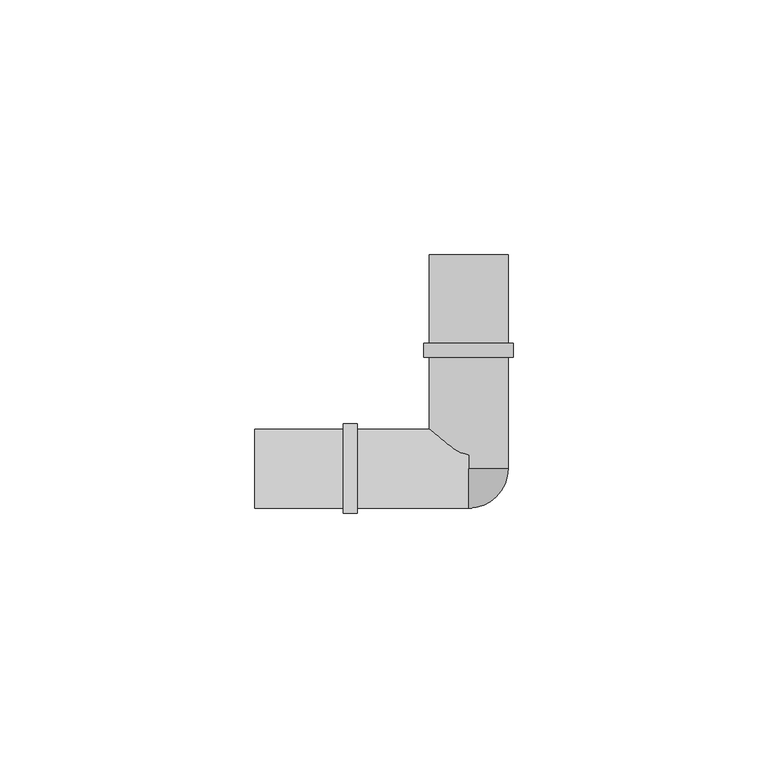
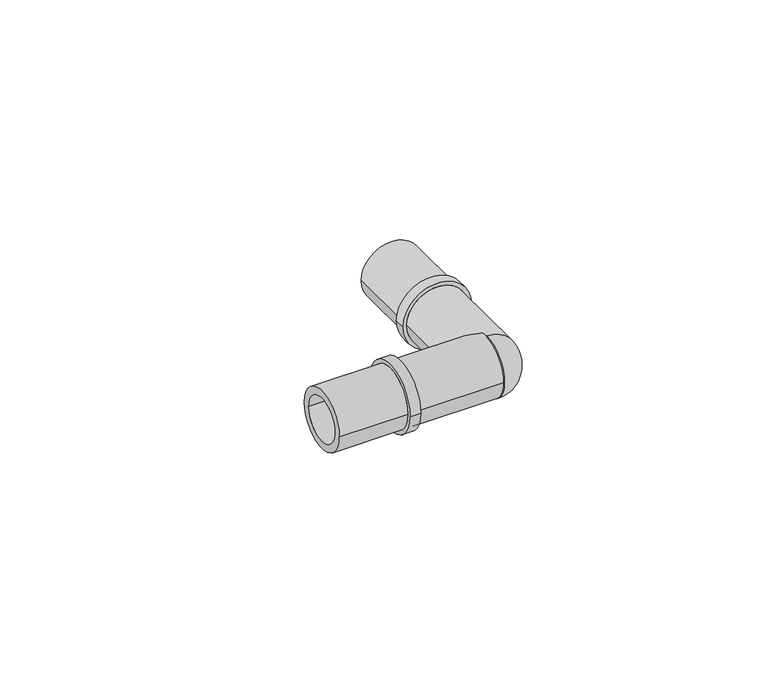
"""IFC4 building model written with IfcOpenShell, lengths in millimetres: pipe fitting geometry, FASTLOC_Corner LX : FSL C LX PL."""

from ifc_helpers import new_model, si_unit, point, frame, origin, place, context, project, spatial, polyline, circle_curve, ellipse_curve, trimmed, source, transform, mapped, element, save
from ifc_brep_helpers import plane_surface, cylinder_surface, revolved_surface, advanced_brep


def pipe_fitting_daad601f(model_context):
    return source(origin(), model_context, "Body", "AdvancedBrep", [
        advanced_brep(
        [(0.0, 0.0, 7.8), (0.0, 0.0, 0.0), (0.0, -7.8, 0.0), (0.0, 0.0, -7.8)],
        [
            (0, 1),
            (1, 2),
            (2, 0, circle_curve(frame((0.0, 0.0, 0.0), z_axis=(-1.0, 0.0, 0.0), x_axis=(0.0, 0.0, 1.0)), 7.8)),
            (3, 2, circle_curve(frame((0.0, 0.0, 0.0), z_axis=(-1.0, 0.0, 0.0), x_axis=(0.0, 0.0, -1.0)), 7.8)),
            (1, 3),
            (0, 3, circle_curve(frame((0.0, 0.0, 0.0), z_axis=(0.0, 1.0, 0.0), x_axis=(0.0, 0.0, 1.0)), 7.8)),
        ],
        [
            plane_surface(frame((0.0, 0.0, 0.0), z_axis=(-1.0, 0.0, 0.0), x_axis=(0.0, 0.0, 1.0))),
            plane_surface(frame((0.0, 0.0, 0.0), z_axis=(-1.0, 0.0, 0.0), x_axis=(0.0, 0.0, -1.0))),
            plane_surface(frame((0.0, 0.0, 0.0), z_axis=(0.0, 1.0, 0.0), x_axis=(0.0, 0.0, 1.0))),
            revolved_surface(trimmed(ellipse_curve(frame((0.0, 0.0, 0.0), z_axis=(-1.0, 0.0, 0.0), x_axis=(0.0, 0.0, 1.0)), 7.8, 7.8), [point((0.0, -7.8, 0.0))], [point((0.0, 0.0, 7.8))], True, "CARTESIAN"), (0.0, 0.0, 0.0), (0.0, 1.0, 0.0)),
        ],
        [
            (0, [[1, 2, 3]]),
            (1, [[4, -2, 5]]),
            (2, [[-1, 6, -5]]),
            (3, [[-6, -3, -4]]),
        ],
    ),
        advanced_brep(
        [(-42.0, 5.75, 0.0), (-42.0, -5.75, 0.0), (0.0, -5.75, 0.0), (0.0, 5.75, 0.0), (-24.6, 7.75, 0.0), (-24.6, -7.75, 0.0), (-42.0, -7.75, 0.0), (-42.0, 7.75, 0.0), (-21.9, 8.8, 0.0), (-21.9, -8.8, 0.0), (-24.6, -8.8, 0.0), (-24.6, 8.8, 0.0), (0.0, 7.75, 0.0), (0.0, -7.75, 0.0), (-21.9, -7.75, 0.0), (-21.9, 7.75, 0.0)],
        [
            (0, 1, circle_curve(frame((-42.0, 0.0, 0.0), z_axis=(-1.0, 0.0, 0.0), x_axis=(0.0, -1.0, 0.0)), 5.75)),
            (1, 2),
            (2, 3, circle_curve(frame((0.0, 0.0, 0.0), z_axis=(1.0, 0.0, 0.0), x_axis=(0.0, -1.0, 0.0)), 5.75)),
            (3, 0),
            (4, 5, circle_curve(frame((-24.6, 0.0, 0.0), z_axis=(-1.0, 0.0, 0.0), x_axis=(0.0, -1.0, 0.0)), 7.75)),
            (5, 6),
            (6, 7, circle_curve(frame((-42.0, 0.0, 0.0), z_axis=(1.0, 0.0, 0.0), x_axis=(0.0, -1.0, 0.0)), 7.75)),
            (7, 4),
            (8, 9, circle_curve(frame((-21.9, 0.0, 0.0), z_axis=(-1.0, 0.0, 0.0), x_axis=(0.0, -1.0, 0.0)), 8.8)),
            (9, 10),
            (10, 11, circle_curve(frame((-24.6, 0.0, 0.0), z_axis=(1.0, 0.0, 0.0), x_axis=(0.0, -1.0, 0.0)), 8.8)),
            (11, 8),
            (12, 13, circle_curve(frame((0.0, 0.0, 0.0), z_axis=(-1.0, 0.0, 0.0), x_axis=(0.0, -1.0, 0.0)), 7.75)),
            (13, 14),
            (14, 15, circle_curve(frame((-21.9, 0.0, 0.0), z_axis=(1.0, 0.0, 0.0), x_axis=(0.0, -1.0, 0.0)), 7.75)),
            (15, 12),
            (1, 0, circle_curve(frame((-42.0, 0.0, 0.0), z_axis=(-1.0, 0.0, 0.0), x_axis=(0.0, 1.0, 0.0)), 5.75)),
            (3, 2, circle_curve(frame((0.0, 0.0, 0.0), z_axis=(1.0, 0.0, 0.0), x_axis=(0.0, 1.0, 0.0)), 5.75)),
            (6, 7, circle_curve(frame((-42.0, 0.0, 0.0), z_axis=(-1.0, 0.0, 0.0), x_axis=(0.0, 1.0, 0.0)), 7.75)),
            (5, 4, circle_curve(frame((-24.6, 0.0, 0.0), z_axis=(-1.0, 0.0, 0.0), x_axis=(0.0, 1.0, 0.0)), 7.75)),
            (10, 11, circle_curve(frame((-24.6, 0.0, 0.0), z_axis=(-1.0, 0.0, 0.0), x_axis=(0.0, 1.0, 0.0)), 8.8)),
            (9, 8, circle_curve(frame((-21.9, 0.0, 0.0), z_axis=(-1.0, 0.0, 0.0), x_axis=(0.0, 1.0, 0.0)), 8.8)),
            (14, 15, circle_curve(frame((-21.9, 0.0, 0.0), z_axis=(-1.0, 0.0, 0.0), x_axis=(0.0, 1.0, 0.0)), 7.75)),
            (13, 12, circle_curve(frame((0.0, 0.0, 0.0), z_axis=(-1.0, 0.0, 0.0), x_axis=(0.0, 1.0, 0.0)), 7.75)),
        ],
        [
            revolved_surface(polyline([(0.0, -5.75, 0.0), (-42.0, -5.75, 0.0)]), (0.0, 0.0, 0.0), (1.0, 0.0, 0.0)),
            cylinder_surface(frame((0.0, 0.0, 0.0), z_axis=(1.0, 0.0, 0.0), x_axis=(0.0, -1.0, 0.0)), 7.75),
            cylinder_surface(frame((0.0, 0.0, 0.0), z_axis=(1.0, 0.0, 0.0), x_axis=(0.0, -1.0, 0.0)), 8.8),
            revolved_surface(polyline([(0.0, 5.75, 0.0), (-42.0, 5.75, 0.0)]), (0.0, 0.0, 0.0), (1.0, 0.0, 0.0)),
            plane_surface(frame((-42.0, 0.0, 0.0), z_axis=(-1.0, 0.0, 0.0), x_axis=(0.0, 1.0, 0.0))),
            cylinder_surface(frame((0.0, 0.0, 0.0), z_axis=(1.0, 0.0, 0.0), x_axis=(0.0, 1.0, 0.0)), 7.75),
            plane_surface(frame((-24.6, 0.0, 0.0), z_axis=(-1.0, 0.0, 0.0), x_axis=(0.0, 1.0, 0.0))),
            cylinder_surface(frame((0.0, 0.0, 0.0), z_axis=(1.0, 0.0, 0.0), x_axis=(0.0, 1.0, 0.0)), 8.8),
            plane_surface(frame((-21.9, 0.0, 0.0), z_axis=(1.0, 0.0, 0.0), x_axis=(0.0, 1.0, 0.0))),
            plane_surface(frame((0.0, 0.0, 0.0), z_axis=(1.0, 0.0, 0.0), x_axis=(0.0, 1.0, 0.0))),
        ],
        [
            (0, [[1, 2, 3, 4]]),
            (1, [[5, 6, 7, 8]]),
            (2, [[9, 10, 11, 12]]),
            (1, [[13, 14, 15, 16]]),
            (3, [[17, -4, 18, -2]]),
            (4, [[19, -7], [-17, -1]]),
            (5, [[20, -8, -19, -6]]),
            (6, [[21, -11], [-20, -5]]),
            (7, [[22, -12, -21, -10]]),
            (8, [[-22, -9], [23, -15]]),
            (5, [[24, -16, -23, -14]]),
            (9, [[-24, -13], [-18, -3]]),
        ],
    ),
        advanced_brep(
        [(5.75, 42.0, 0.0), (-5.75, 42.0, 0.0), (-5.75, 0.0, 0.0), (5.75, 0.0, 0.0), (7.75, 24.6, 0.0), (-7.75, 24.6, 0.0), (-7.75, 42.0, 0.0), (7.75, 42.0, 0.0), (8.8, 21.9, 0.0), (-8.8, 21.9, 0.0), (-8.8, 24.6, 0.0), (8.8, 24.6, 0.0), (7.75, 0.0, 0.0), (-7.75, 0.0, 0.0), (-7.75, 21.9, 0.0), (7.75, 21.9, 0.0)],
        [
            (0, 1, circle_curve(frame((0.0, 42.0, 0.0), z_axis=(0.0, 1.0, 0.0), x_axis=(-1.0, 0.0, 0.0)), 5.75)),
            (1, 2),
            (2, 3, circle_curve(frame((0.0, 0.0, 0.0), z_axis=(0.0, -1.0, 0.0), x_axis=(-1.0, 0.0, 0.0)), 5.75)),
            (3, 0),
            (4, 5, circle_curve(frame((0.0, 24.6, 0.0), z_axis=(0.0, 1.0, 0.0), x_axis=(-1.0, 0.0, 0.0)), 7.75)),
            (5, 6),
            (6, 7, circle_curve(frame((0.0, 42.0, 0.0), z_axis=(0.0, -1.0, 0.0), x_axis=(-1.0, 0.0, 0.0)), 7.75)),
            (7, 4),
            (8, 9, circle_curve(frame((0.0, 21.9, 0.0), z_axis=(0.0, 1.0, 0.0), x_axis=(-1.0, 0.0, 0.0)), 8.8)),
            (9, 10),
            (10, 11, circle_curve(frame((0.0, 24.6, 0.0), z_axis=(0.0, -1.0, 0.0), x_axis=(-1.0, 0.0, 0.0)), 8.8)),
            (11, 8),
            (12, 13, circle_curve(frame((0.0, 0.0, 0.0), z_axis=(0.0, 1.0, 0.0), x_axis=(-1.0, 0.0, 0.0)), 7.75)),
            (13, 14),
            (14, 15, circle_curve(frame((0.0, 21.9, 0.0), z_axis=(0.0, -1.0, 0.0), x_axis=(-1.0, 0.0, 0.0)), 7.75)),
            (15, 12),
            (1, 0, circle_curve(frame((0.0, 42.0, 0.0), z_axis=(0.0, 1.0, 0.0), x_axis=(1.0, 0.0, 0.0)), 5.75)),
            (3, 2, circle_curve(frame((0.0, 0.0, 0.0), z_axis=(0.0, -1.0, 0.0), x_axis=(1.0, 0.0, 0.0)), 5.75)),
            (6, 7, circle_curve(frame((0.0, 42.0, 0.0), z_axis=(0.0, 1.0, 0.0), x_axis=(1.0, 0.0, 0.0)), 7.75)),
            (5, 4, circle_curve(frame((0.0, 24.6, 0.0), z_axis=(0.0, 1.0, 0.0), x_axis=(1.0, 0.0, 0.0)), 7.75)),
            (10, 11, circle_curve(frame((0.0, 24.6, 0.0), z_axis=(0.0, 1.0, 0.0), x_axis=(1.0, 0.0, 0.0)), 8.8)),
            (9, 8, circle_curve(frame((0.0, 21.9, 0.0), z_axis=(0.0, 1.0, 0.0), x_axis=(1.0, 0.0, 0.0)), 8.8)),
            (14, 15, circle_curve(frame((0.0, 21.9, 0.0), z_axis=(0.0, 1.0, 0.0), x_axis=(1.0, 0.0, 0.0)), 7.75)),
            (13, 12, circle_curve(frame((0.0, 0.0, 0.0), z_axis=(0.0, 1.0, 0.0), x_axis=(1.0, 0.0, 0.0)), 7.75)),
        ],
        [
            revolved_surface(polyline([(-5.75, 0.0, 0.0), (-5.75, 42.0, 0.0)]), (0.0, 0.0, 0.0), (0.0, -1.0, 0.0)),
            cylinder_surface(frame((0.0, 0.0, 0.0), z_axis=(0.0, -1.0, 0.0), x_axis=(-1.0, 0.0, 0.0)), 7.75),
            cylinder_surface(frame((0.0, 0.0, 0.0), z_axis=(0.0, -1.0, 0.0), x_axis=(-1.0, 0.0, 0.0)), 8.8),
            revolved_surface(polyline([(5.75, 0.0, 0.0), (5.75, 42.0, 0.0)]), (0.0, 0.0, 0.0), (0.0, -1.0, 0.0)),
            plane_surface(frame((0.0, 42.0, 0.0), z_axis=(0.0, 1.0, 0.0), x_axis=(1.0, 0.0, 0.0))),
            cylinder_surface(frame((0.0, 0.0, 0.0), z_axis=(0.0, -1.0, 0.0), x_axis=(1.0, 0.0, 0.0)), 7.75),
            plane_surface(frame((0.0, 24.6, 0.0), z_axis=(0.0, 1.0, 0.0), x_axis=(1.0, 0.0, 0.0))),
            cylinder_surface(frame((0.0, 0.0, 0.0), z_axis=(0.0, -1.0, 0.0), x_axis=(1.0, 0.0, 0.0)), 8.8),
            plane_surface(frame((0.0, 21.9, 0.0), z_axis=(0.0, -1.0, 0.0), x_axis=(1.0, 0.0, 0.0))),
            plane_surface(frame((0.0, 0.0, 0.0), z_axis=(0.0, -1.0, 0.0), x_axis=(1.0, 0.0, 0.0))),
        ],
        [
            (0, [[1, 2, 3, 4]]),
            (1, [[5, 6, 7, 8]]),
            (2, [[9, 10, 11, 12]]),
            (1, [[13, 14, 15, 16]]),
            (3, [[17, -4, 18, -2]]),
            (4, [[19, -7], [-17, -1]]),
            (5, [[20, -8, -19, -6]]),
            (6, [[21, -11], [-20, -5]]),
            (7, [[22, -12, -21, -10]]),
            (8, [[-22, -9], [23, -15]]),
            (5, [[24, -16, -23, -14]]),
            (9, [[-24, -13], [-18, -3]]),
        ],
    ),
    ])


if __name__ == "__main__":
    model = new_model("IFC4")
    model_context = context("Model", 3, world=origin())
    ifc_project = project(units=[si_unit("LENGTHUNIT", "METRE", prefix="MILLI")], contexts=[model_context])
    site = spatial("IfcSite", under=ifc_project)
    building = spatial("IfcBuilding", under=site)
    placement = place(None, origin())
    pipe_fitting_shape = pipe_fitting_daad601f(model_context)
    element("IfcPipeFitting", 1, ObjectType="FASTLOC_Corner LX : FSL C LX PL", at=placement, inside=building, context=model_context, shape_type="MappedRepresentation", body=[
        mapped(pipe_fitting_shape, transform((0.0, 0.0, 0.0), x_axis=(1.0, 0.0, 0.0), y_axis=(0.0, 1.0, 0.0), z_axis=(0.0, 0.0, 1.0))),
    ])
    save(model, "model.ifc")
